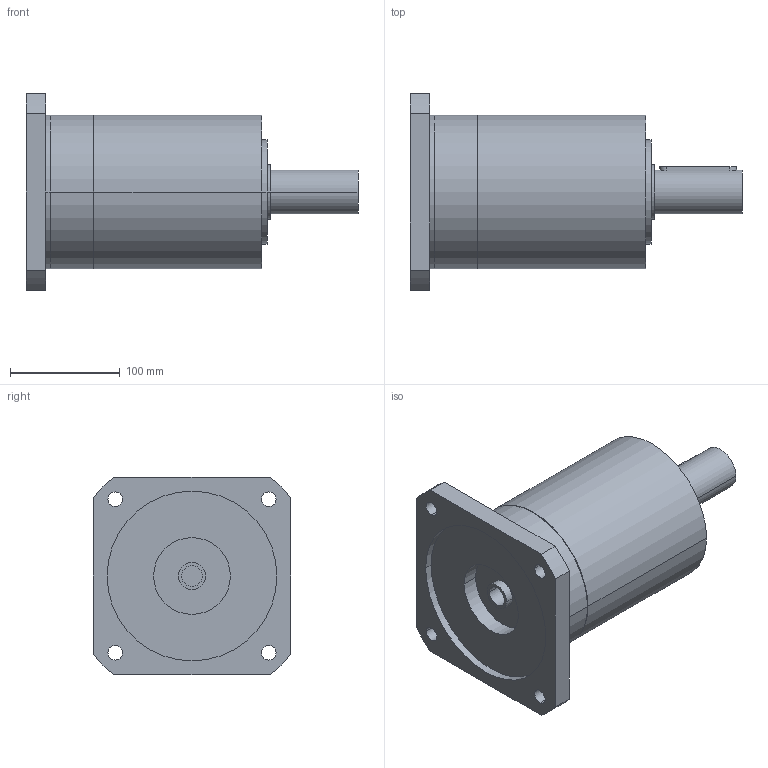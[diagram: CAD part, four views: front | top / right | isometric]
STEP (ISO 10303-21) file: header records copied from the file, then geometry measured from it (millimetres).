
FILE_DESCRIPTION(('CoCreate Modeling STEP Export'),'2;1');
FILE_NAME('GPR150_ig-9-12-16-20-28-35_40_B14_19_P11.stp','2014-08-19T17:03:21',(''),(''),'CoCreate Modeling STEP processor for AP214 (Solid Model)','CoCreate Modeling 16.00C 25-Feb-2009 (C) Parametric Technology GmbH','');
FILE_SCHEMA(('AUTOMOTIVE_DESIGN { 1 0 10303 214 1 1 1 1 }'));
Length unit declared in the file: millimetre
Products named in the file (2): GPR150_ig-9-12-16-20-28-35_40_B14_19_P11
Assembly tree (1 placements, depth 2):
  GPR150_ig-9-12-16-20-28-35_40_B14_19_P11
    GPR150_ig-9-12-16-20-28-35_40_B14_19_P11
Bounding box: 303 x 180 x 180 mm (x, y, z)
Volume: 3527406 mm3; surface area: 191911.3 mm2
Topology: 1 solids, 1 shells, 73 faces, 196 edges, 138 vertices
Faces by surface type: cylinder 44, plane 23, cone 6
Entity records: 2043 total; most frequent: CARTESIAN_POINT 397, ORIENTED_EDGE 388, DIRECTION 274, EDGE_CURVE 194, VERTEX_POINT 138, AXIS2_PLACEMENT_3D 103, EDGE_LOOP 96, FACE_OUTER_BOUND 73
